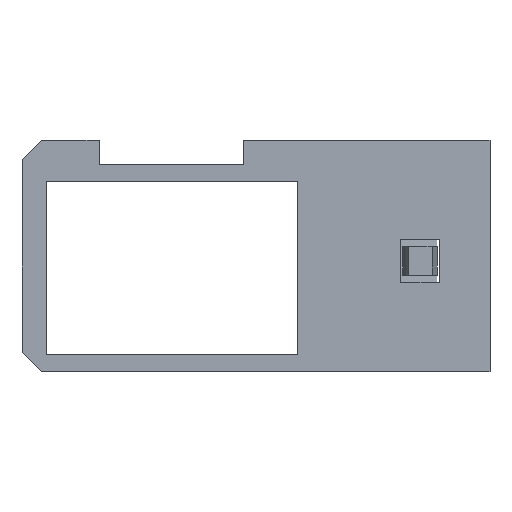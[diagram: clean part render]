
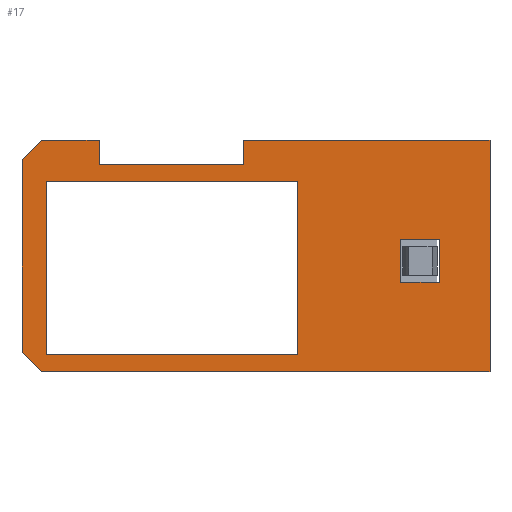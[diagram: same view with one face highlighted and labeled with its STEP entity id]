
A CAD part, top view. The second image highlights one B-rep face of the part: STEP entity #17.
In plain terms, the highlighted planar face has unit normal (0, 0, 1).
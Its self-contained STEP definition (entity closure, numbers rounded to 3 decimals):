
#17 = ADVANCED_FACE('',(#18,#100,#134),#168,.F.);
#18 = FACE_BOUND('',#19,.F.);
#19 = EDGE_LOOP('',(#20,#30,#38,#46,#54,#62,#70,#78,#86,#94));
#20 = ORIENTED_EDGE('',*,*,#21,.T.);
#21 = EDGE_CURVE('',#22,#24,#26,.T.);
#22 = VERTEX_POINT('',#23);
#23 = CARTESIAN_POINT('',(85.5,-24.,36.));
#24 = VERTEX_POINT('',#25);
#25 = CARTESIAN_POINT('',(39.,-24.,36.));
#26 = LINE('',#27,#28);
#27 = CARTESIAN_POINT('',(85.5,-24.,36.));
#28 = VECTOR('',#29,1.);
#29 = DIRECTION('',(-1.,0.,0.));
#30 = ORIENTED_EDGE('',*,*,#31,.T.);
#31 = EDGE_CURVE('',#24,#32,#34,.T.);
#32 = VERTEX_POINT('',#33);
#33 = CARTESIAN_POINT('',(37.,-22.,36.));
#34 = LINE('',#35,#36);
#35 = CARTESIAN_POINT('',(44.125,-29.125,36.));
#36 = VECTOR('',#37,1.);
#37 = DIRECTION('',(-0.707,0.707,0.)
  );
#38 = ORIENTED_EDGE('',*,*,#39,.F.);
#39 = EDGE_CURVE('',#40,#32,#42,.T.);
#40 = VERTEX_POINT('',#41);
#41 = CARTESIAN_POINT('',(37.,-2.,36.));
#42 = LINE('',#43,#44);
#43 = CARTESIAN_POINT('',(37.,0.,36.));
#44 = VECTOR('',#45,1.);
#45 = DIRECTION('',(0.,-1.,0.));
#46 = ORIENTED_EDGE('',*,*,#47,.T.);
#47 = EDGE_CURVE('',#40,#48,#50,.T.);
#48 = VERTEX_POINT('',#49);
#49 = CARTESIAN_POINT('',(39.,0.,36.));
#50 = LINE('',#51,#52);
#51 = CARTESIAN_POINT('',(50.125,11.125,36.));
#52 = VECTOR('',#53,1.);
#53 = DIRECTION('',(0.707,0.707,0.));
#54 = ORIENTED_EDGE('',*,*,#55,.F.);
#55 = EDGE_CURVE('',#56,#48,#58,.T.);
#56 = VERTEX_POINT('',#57);
#57 = CARTESIAN_POINT('',(45.,0.,36.));
#58 = LINE('',#59,#60);
#59 = CARTESIAN_POINT('',(85.5,0.,36.));
#60 = VECTOR('',#61,1.);
#61 = DIRECTION('',(-1.,0.,0.));
#62 = ORIENTED_EDGE('',*,*,#63,.F.);
#63 = EDGE_CURVE('',#64,#56,#66,.T.);
#64 = VERTEX_POINT('',#65);
#65 = CARTESIAN_POINT('',(45.,-2.5,36.));
#66 = LINE('',#67,#68);
#67 = CARTESIAN_POINT('',(45.,-2.5,36.));
#68 = VECTOR('',#69,1.);
#69 = DIRECTION('',(0.,1.,0.));
#70 = ORIENTED_EDGE('',*,*,#71,.F.);
#71 = EDGE_CURVE('',#72,#64,#74,.T.);
#72 = VERTEX_POINT('',#73);
#73 = CARTESIAN_POINT('',(60.,-2.5,36.));
#74 = LINE('',#75,#76);
#75 = CARTESIAN_POINT('',(60.,-2.5,36.));
#76 = VECTOR('',#77,1.);
#77 = DIRECTION('',(-1.,0.,0.));
#78 = ORIENTED_EDGE('',*,*,#79,.F.);
#79 = EDGE_CURVE('',#80,#72,#82,.T.);
#80 = VERTEX_POINT('',#81);
#81 = CARTESIAN_POINT('',(60.,0.,36.));
#82 = LINE('',#83,#84);
#83 = CARTESIAN_POINT('',(60.,0.,36.));
#84 = VECTOR('',#85,1.);
#85 = DIRECTION('',(0.,-1.,0.));
#86 = ORIENTED_EDGE('',*,*,#87,.F.);
#87 = EDGE_CURVE('',#88,#80,#90,.T.);
#88 = VERTEX_POINT('',#89);
#89 = CARTESIAN_POINT('',(85.5,0.,36.));
#90 = LINE('',#91,#92);
#91 = CARTESIAN_POINT('',(85.5,0.,36.));
#92 = VECTOR('',#93,1.);
#93 = DIRECTION('',(-1.,0.,0.));
#94 = ORIENTED_EDGE('',*,*,#95,.T.);
#95 = EDGE_CURVE('',#88,#22,#96,.T.);
#96 = LINE('',#97,#98);
#97 = CARTESIAN_POINT('',(85.5,0.,36.));
#98 = VECTOR('',#99,1.);
#99 = DIRECTION('',(0.,-1.,0.));
#100 = FACE_BOUND('',#101,.F.);
#101 = EDGE_LOOP('',(#102,#112,#120,#128));
#102 = ORIENTED_EDGE('',*,*,#103,.T.);
#103 = EDGE_CURVE('',#104,#106,#108,.T.);
#104 = VERTEX_POINT('',#105);
#105 = CARTESIAN_POINT('',(76.23,-14.75,36.));
#106 = VERTEX_POINT('',#107);
#107 = CARTESIAN_POINT('',(80.258,-14.75,36.));
#108 = LINE('',#109,#110);
#109 = CARTESIAN_POINT('',(82.207,-14.75,36.));
#110 = VECTOR('',#111,1.);
#111 = DIRECTION('',(1.,0.,0.));
#112 = ORIENTED_EDGE('',*,*,#113,.T.);
#113 = EDGE_CURVE('',#106,#114,#116,.T.);
#114 = VERTEX_POINT('',#115);
#115 = CARTESIAN_POINT('',(80.258,-10.25,36.));
#116 = LINE('',#117,#118);
#117 = CARTESIAN_POINT('',(80.258,-5.125,36.));
#118 = VECTOR('',#119,1.);
#119 = DIRECTION('',(0.,1.,0.));
#120 = ORIENTED_EDGE('',*,*,#121,.F.);
#121 = EDGE_CURVE('',#122,#114,#124,.T.);
#122 = VERTEX_POINT('',#123);
#123 = CARTESIAN_POINT('',(76.23,-10.25,36.));
#124 = LINE('',#125,#126);
#125 = CARTESIAN_POINT('',(82.207,-10.25,36.));
#126 = VECTOR('',#127,1.);
#127 = DIRECTION('',(1.,0.,0.));
#128 = ORIENTED_EDGE('',*,*,#129,.F.);
#129 = EDGE_CURVE('',#104,#122,#130,.T.);
#130 = LINE('',#131,#132);
#131 = CARTESIAN_POINT('',(76.23,-10.25,36.));
#132 = VECTOR('',#133,1.);
#133 = DIRECTION('',(0.,1.,0.));
#134 = FACE_BOUND('',#135,.F.);
#135 = EDGE_LOOP('',(#136,#146,#154,#162));
#136 = ORIENTED_EDGE('',*,*,#137,.T.);
#137 = EDGE_CURVE('',#138,#140,#142,.T.);
#138 = VERTEX_POINT('',#139);
#139 = CARTESIAN_POINT('',(65.5,-4.25,36.));
#140 = VERTEX_POINT('',#141);
#141 = CARTESIAN_POINT('',(39.5,-4.25,36.));
#142 = LINE('',#143,#144);
#143 = CARTESIAN_POINT('',(65.5,-4.25,36.));
#144 = VECTOR('',#145,1.);
#145 = DIRECTION('',(-1.,0.,0.));
#146 = ORIENTED_EDGE('',*,*,#147,.T.);
#147 = EDGE_CURVE('',#140,#148,#150,.T.);
#148 = VERTEX_POINT('',#149);
#149 = CARTESIAN_POINT('',(39.5,-22.25,36.));
#150 = LINE('',#151,#152);
#151 = CARTESIAN_POINT('',(39.5,-4.25,36.));
#152 = VECTOR('',#153,1.);
#153 = DIRECTION('',(0.,-1.,0.));
#154 = ORIENTED_EDGE('',*,*,#155,.T.);
#155 = EDGE_CURVE('',#148,#156,#158,.T.);
#156 = VERTEX_POINT('',#157);
#157 = CARTESIAN_POINT('',(65.5,-22.25,36.));
#158 = LINE('',#159,#160);
#159 = CARTESIAN_POINT('',(39.5,-22.25,36.));
#160 = VECTOR('',#161,1.);
#161 = DIRECTION('',(1.,0.,0.));
#162 = ORIENTED_EDGE('',*,*,#163,.T.);
#163 = EDGE_CURVE('',#156,#138,#164,.T.);
#164 = LINE('',#165,#166);
#165 = CARTESIAN_POINT('',(65.5,-22.25,36.));
#166 = VECTOR('',#167,1.);
#167 = DIRECTION('',(0.,1.,0.));
#168 = PLANE('',#169);
#169 = AXIS2_PLACEMENT_3D('',#170,#171,#172);
#170 = CARTESIAN_POINT('',(85.5,0.,36.));
#171 = DIRECTION('',(-0.,0.,-1.));
#172 = DIRECTION('',(-1.,0.,0.));
